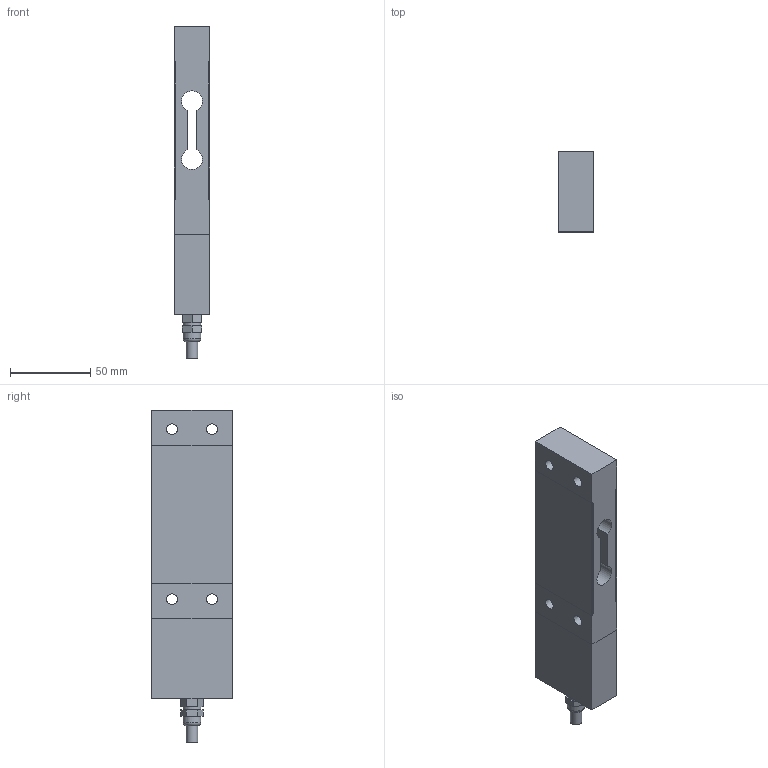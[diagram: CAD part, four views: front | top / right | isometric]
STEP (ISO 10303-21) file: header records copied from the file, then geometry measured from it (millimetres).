
FILE_DESCRIPTION (( 'STEP AP214' ), '1' );
FILE_NAME ('3D_KT302_1KN_komp.STEP', '2012-12-13T08:40:16', ( 'mega' ), ( 'mega' ), 'SwSTEP 2.0', 'SolidWorks 2012', '' );
FILE_SCHEMA (( 'AUTOMOTIVE_DESIGN' ));
Length unit declared in the file: millimetre
Products named in the file (1): 3D_KT302_1KN_komp
Bounding box: 22.2 x 50 x 207 mm (x, y, z)
Volume: 177509.7 mm3; surface area: 35735.1 mm2
Topology: 1 solids, 1 shells, 71 faces, 178 edges, 114 vertices
Faces by surface type: plane 47, cylinder 19, cone 4, torus 1
Full cylindrical faces by diameter (mm): 6.8 x4, 7 x1, 11 x2
Entity records: 2533 total; most frequent: DIRECTION 348, CARTESIAN_POINT 344, ORIENTED_EDGE 324, EDGE_CURVE 162, LINE 120, VECTOR 120, AXIS2_PLACEMENT_3D 114, VERTEX_POINT 110
